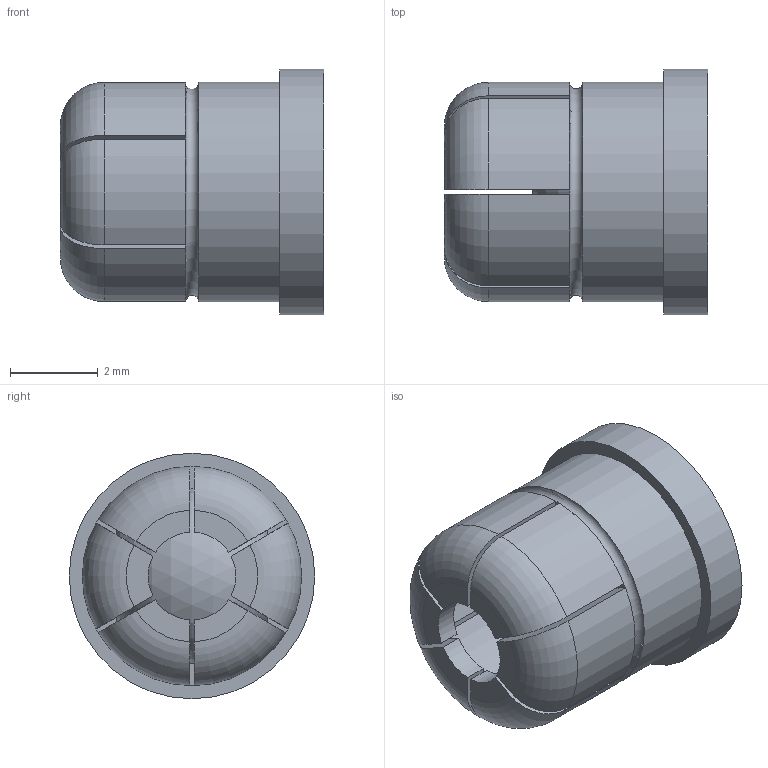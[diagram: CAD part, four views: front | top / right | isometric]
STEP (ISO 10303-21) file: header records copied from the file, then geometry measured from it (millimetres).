
FILE_DESCRIPTION( ( 'STEP AP203' ), '1' );
FILE_NAME( 'C:/Temp/Ganter_Step_05_03_2020/data/3_1/gn_614_5/Spring plunger GN 614.5-5-KU (activated).stp', '2020-03-12T09:12:52', ( 'License CC BY-ND 4.0' ), ( 'CADENAS' ), ' ', 'PARTsolutions', ' ' );
FILE_SCHEMA( ( 'CONFIG_CONTROL_DESIGN' ) );
Length unit declared in the file: millimetre
Products named in the file (1): _Spring plunger GN 614.5-5-KU (activated)
Bounding box: 6 x 5.6 x 5.6 mm (x, y, z)
Volume: 82.2 mm3; surface area: 260.9 mm2
Topology: 1 solids, 1 shells, 63 faces, 165 edges, 106 vertices
Faces by surface type: plane 32, cylinder 16, torus 13, sphere 2
Full cylindrical faces by diameter (mm): 3.98 x2, 5 x1, 5.6 x1
Entity records: 2044 total; most frequent: CARTESIAN_POINT 480, DIRECTION 322, ORIENTED_EDGE 314, EDGE_CURVE 157, AXIS2_PLACEMENT_3D 125, VERTEX_POINT 103, LINE 72, VECTOR 72
